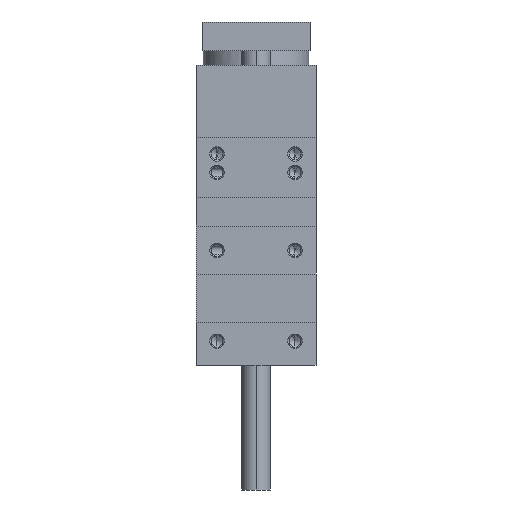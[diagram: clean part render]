
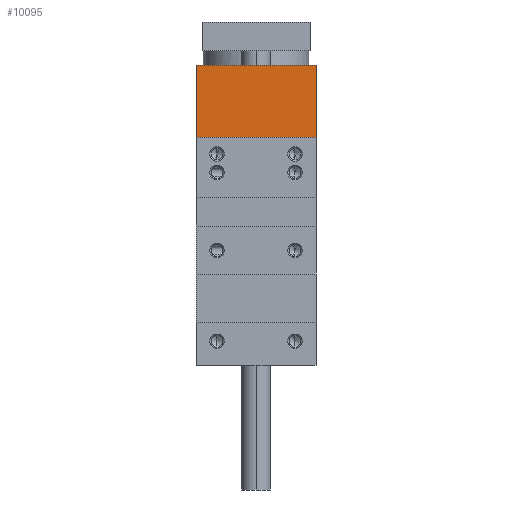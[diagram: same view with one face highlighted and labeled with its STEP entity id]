
A CAD part, left-side view. The second image highlights one B-rep face of the part: STEP entity #10095.
In plain terms, the highlighted planar face has unit normal (-1, 0, 0).
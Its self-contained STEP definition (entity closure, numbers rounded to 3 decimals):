
#92 = VERTEX_POINT ( 'NONE', #10952 ) ;
#153 = LINE ( 'NONE', #3590, #4490 ) ;
#212 = EDGE_CURVE ( 'NONE', #9816, #8697, #1430, .T. ) ;
#398 = ORIENTED_EDGE ( 'NONE', *, *, #212, .T. ) ;
#409 = LINE ( 'NONE', #3839, #4347 ) ;
#461 = EDGE_CURVE ( 'NONE', #9816, #92, #409, .T. ) ;
#1071 = CARTESIAN_POINT ( 'NONE',  ( -48.2, 50., 19. ) ) ;
#1430 = LINE ( 'NONE', #4849, #7232 ) ;
#1628 = VECTOR ( 'NONE', #9568, 1000. ) ;
#2750 = DIRECTION ( 'NONE',  ( 0., -1., 0. ) ) ;
#3130 = CARTESIAN_POINT ( 'NONE',  ( -48.2, -25., 19. ) ) ;
#3156 = CARTESIAN_POINT ( 'NONE',  ( -48.2, 25., 19. ) ) ;
#3590 = CARTESIAN_POINT ( 'NONE',  ( -48.2, 50., 19. ) ) ;
#3674 = ORIENTED_EDGE ( 'NONE', *, *, #10549, .F. ) ;
#3839 = CARTESIAN_POINT ( 'NONE',  ( -48.2, 50., 49. ) ) ;
#4347 = VECTOR ( 'NONE', #8187, 1000. ) ;
#4490 = VECTOR ( 'NONE', #2750, 1000. ) ;
#4849 = CARTESIAN_POINT ( 'NONE',  ( -48.2, 25., 0. ) ) ;
#6712 = CARTESIAN_POINT ( 'NONE',  ( -48.2, 25., 49. ) ) ;
#7084 = LINE ( 'NONE', #10471, #1628 ) ;
#7095 = FACE_OUTER_BOUND ( 'NONE', #10888, .T. ) ;
#7222 = AXIS2_PLACEMENT_3D ( 'NONE', #1071, #8957, #10534 ) ;
#7232 = VECTOR ( 'NONE', #8302, 1000. ) ;
#7307 = ORIENTED_EDGE ( 'NONE', *, *, #461, .F. ) ;
#7913 = VERTEX_POINT ( 'NONE', #3130 ) ;
#7997 = PLANE ( 'NONE',  #7222 ) ;
#8187 = DIRECTION ( 'NONE',  ( 0., -1., 0. ) ) ;
#8302 = DIRECTION ( 'NONE',  ( 0., 0., -1. ) ) ;
#8697 = VERTEX_POINT ( 'NONE', #3156 ) ;
#8957 = DIRECTION ( 'NONE',  ( 1., 0., 0. ) ) ;
#9568 = DIRECTION ( 'NONE',  ( 0., 0., -1. ) ) ;
#9816 = VERTEX_POINT ( 'NONE', #6712 ) ;
#10095 = ADVANCED_FACE ( 'NONE', ( #7095 ), #7997, .F. ) ;
#10471 = CARTESIAN_POINT ( 'NONE',  ( -48.2, -25., 0. ) ) ;
#10534 = DIRECTION ( 'NONE',  ( 0., 1., 0. ) ) ;
#10549 = EDGE_CURVE ( 'NONE', #92, #7913, #7084, .T. ) ;
#10567 = EDGE_CURVE ( 'NONE', #8697, #7913, #153, .T. ) ;
#10888 = EDGE_LOOP ( 'NONE', ( #398, #10993, #3674, #7307 ) ) ;
#10952 = CARTESIAN_POINT ( 'NONE',  ( -48.2, -25., 49. ) ) ;
#10993 = ORIENTED_EDGE ( 'NONE', *, *, #10567, .T. ) ;
